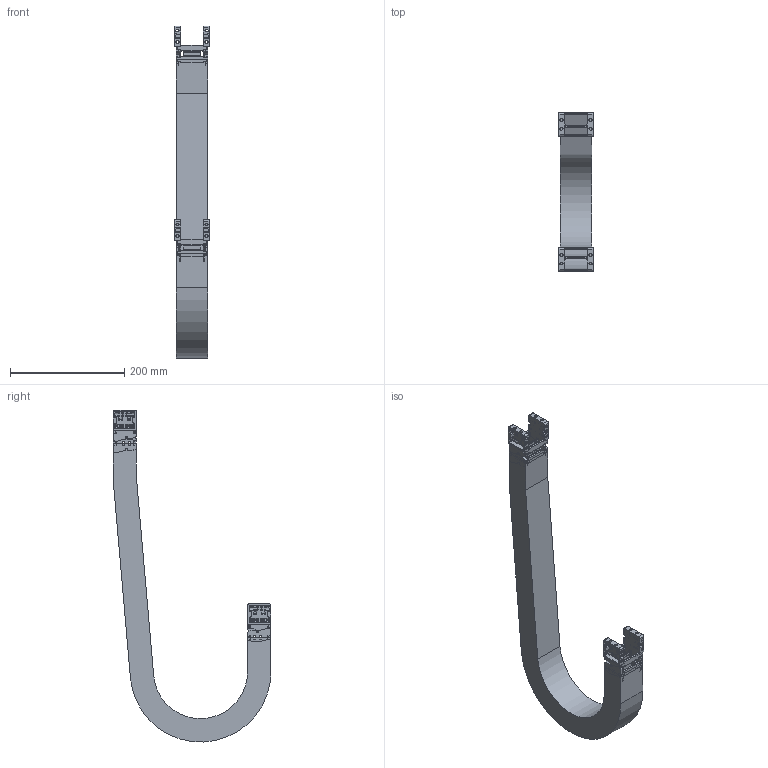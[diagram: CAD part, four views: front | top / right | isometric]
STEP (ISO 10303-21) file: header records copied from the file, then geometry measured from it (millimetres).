
FILE_DESCRIPTION((''),'2;1');
FILE_NAME('KST-30040-100_ASM','2017-12-05T',('KUNI004K'),(''),'PRO/ENGINEER BY PARAMETRIC TECHNOLOGY CORPORATION, 2015200','PRO/ENGINEER BY PARAMETRIC TECHNOLOGY CORPORATION, 2015200','');
FILE_SCHEMA(('AUTOMOTIVE_DESIGN { 1 0 10303 214 1 1 1 1 }'));
Length unit declared in the file: millimetre
Products named in the file (13): 30FBR; 30FBL; 25040C; 30FB_W040_ASM; 30100R; 30100L; 25040H; KST30040-100_1_ASM; KST30040_R100_BODY; 30MBR; 30MBL; 30MB_W040_ASM; KST-30040-100_ASM
Assembly tree (19 placements, depth 3):
  KST-30040-100_ASM
    30FB_W040_ASM
      30FBR
      30FBL
      25040C  x2
    KST30040-100_1_ASM  x2
      30100R
      30100L
      25040C
      25040H
    KST30040_R100_BODY
    30MB_W040_ASM
      30MBR
      30MBL
      25040C  x2
Bounding box: 60 x 277 x 582.18 mm (x, y, z)
Volume: 894311.4 mm3; surface area: 389385 mm2
Topology: 21 solids, 21 shells, 2524 faces, 6926 edges, 4464 vertices
Faces by surface type: plane 1282, cylinder 898, bspline 216, torus 64, sphere 64
Entity records: 70408 total; most frequent: CARTESIAN_POINT 15678, ORIENTED_EDGE 7408, DIRECTION 6586, PRESENTATION_STYLE_ASSIGNMENT 5028, STYLED_ITEM 5028, CURVE_STYLE 3704, EDGE_CURVE 3704, VERTEX_POINT 2416
